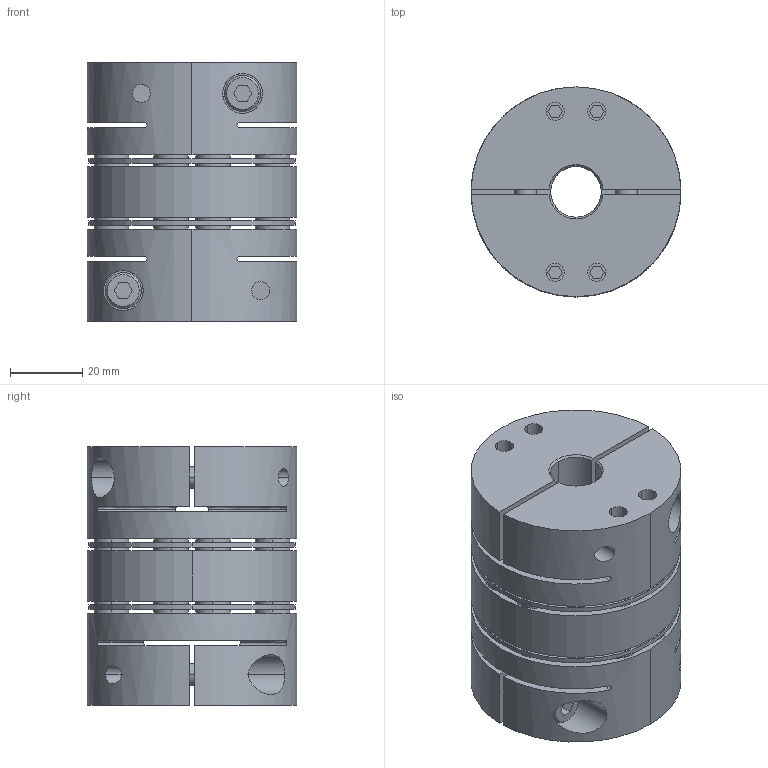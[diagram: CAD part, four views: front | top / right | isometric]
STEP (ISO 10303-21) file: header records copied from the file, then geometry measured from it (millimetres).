
FILE_DESCRIPTION((''),'2;1');
FILE_NAME('TAD-58C-14×30.stp','2022-11-13T22:17:14',(''),(''),'AutoCAD STEP 2000i','AutoCAD 2000i',', , ');
FILE_SCHEMA(('CONFIG_CONTROL_DESIGN'));
Length unit declared in the file: millimetre
Products named in the file (7): TAD-58C-12×22; 忣兜1; TA58C-22; CAP-M6×20; TA58C-12-2; TA58C-12; TAS-58C-ITA
Assembly tree (8 placements, depth 3):
  TAD-58C-12×22
    忣兜1
    TA58C-22
      CAP-M6×20
    TA58C-12-2
      CAP-M6×20
    TA58C-12
      CAP-M6×20
    TAS-58C-ITA
Bounding box: 58 x 58 x 71.5 mm (x, y, z)
Volume: 128306 mm3; surface area: 54920.7 mm2
Topology: 1 solids, 5 shells, 568 faces, 1365 edges, 937 vertices
Faces by surface type: plane 252, cylinder 228, cone 72, bspline 16
Entity records: 18667 total; most frequent: CARTESIAN_POINT 4826, DIRECTION 3008, ORIENTED_EDGE 2640, EDGE_CURVE 1320, AXIS2_PLACEMENT_3D 1142, VERTEX_POINT 860, EDGE_LOOP 724, VECTOR 724
